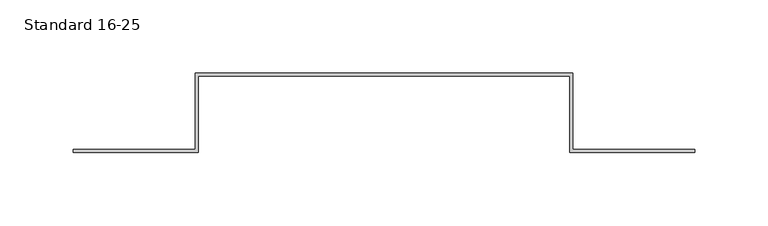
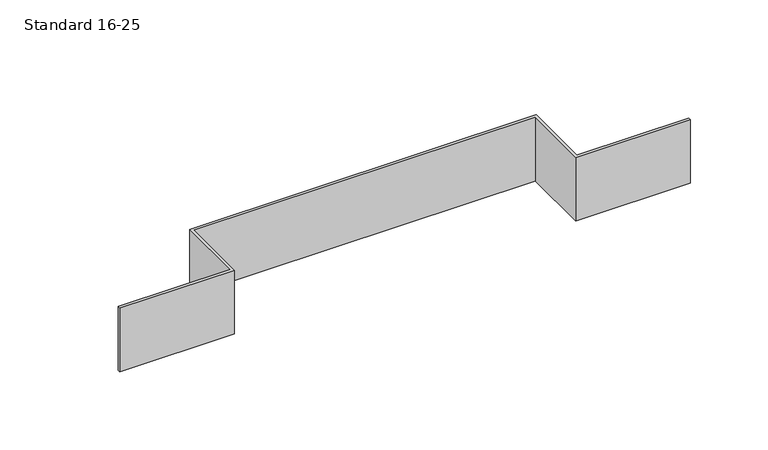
"""IFC4 building model written with IfcOpenShell, lengths in millimetres: pipe fitting geometry, PIF_Tigris_Multiple_Plate_Elbow_FMT_Wavin_(multiport) : Standard 16-25."""

from ifc_helpers import new_model, si_unit, frame, origin, place, context, project, spatial, polyline, outline, extrude, source, transform, mapped, element, save


def standard_16_25_0061edbd(model_context):
    return source(origin(), model_context, "Body", "SweptSolid", [
        extrude(outline(polyline([(-126.5, -52.0), (-211.5, -52.0), (-211.5, -50.0), (-128.5, -50.0), (-128.5, 2.0), (128.5, 2.0), (128.5, -50.0), (211.5, -50.0), (211.5, -52.0), (126.5, -52.0), (126.5, 0.0), (-126.5, 0.0), (-126.5, -52.0)])), frame((0.0, 0.0, -25.0), z_axis=(0.0, 0.0, 1.0), x_axis=(1.0, 0.0, 0.0)), (0.0, 0.0, 1.0), 50.0),
    ])


if __name__ == "__main__":
    model = new_model("IFC4")
    model_context = context("Model", 3, world=origin())
    ifc_project = project(units=[si_unit("LENGTHUNIT", "METRE", prefix="MILLI")], contexts=[model_context])
    site = spatial("IfcSite", under=ifc_project)
    building = spatial("IfcBuilding", under=site)
    placement = place(None, origin())
    standard_16_25_shape = standard_16_25_0061edbd(model_context)
    element("IfcPipeFitting", 1, ObjectType="PIF_Tigris_Multiple_Plate_Elbow_FMT_Wavin_(multiport) : Standard 16-25", at=placement, inside=building, context=model_context, shape_type="MappedRepresentation", body=[
        mapped(standard_16_25_shape, transform((0.0, 0.0, 0.0), x_axis=(1.0, 0.0, 0.0), y_axis=(0.0, 1.0, 0.0), z_axis=(0.0, 0.0, 1.0))),
    ])
    save(model, "model.ifc")
